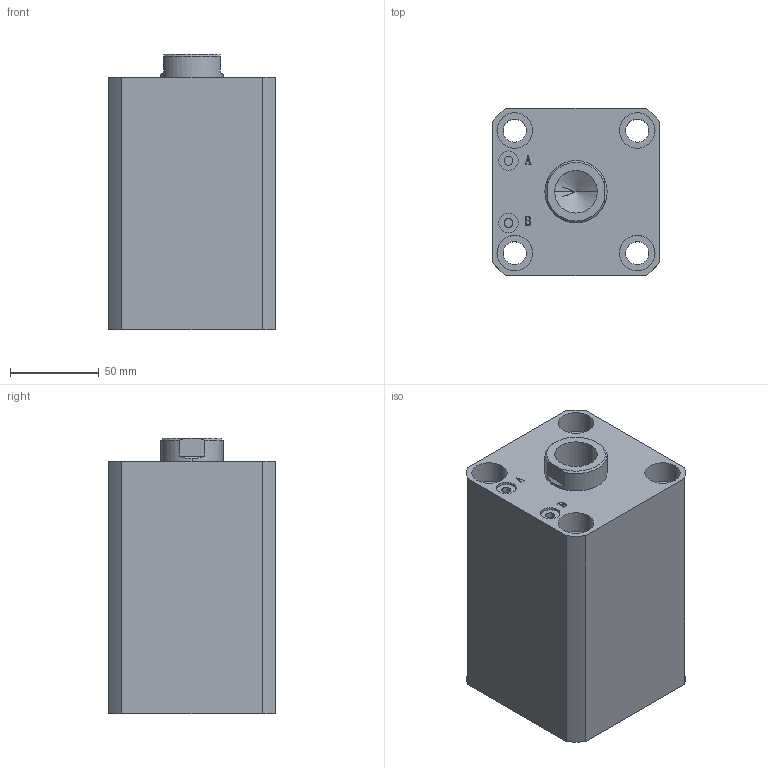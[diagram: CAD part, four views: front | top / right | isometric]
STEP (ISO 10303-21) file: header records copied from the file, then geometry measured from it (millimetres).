
FILE_DESCRIPTION (( 'STEP AP203' ), '1' );
FILE_NAME ('HTB-SDMA63-75N.STEP', '2019-10-08T01:13:01', ( '微软用户' ), ( '微软中国' ), 'SwSTEP 2.0', 'SolidWorks 2012', '' );
FILE_SCHEMA (( 'CONFIG_CONTROL_DESIGN' ));
Length unit declared in the file: millimetre
Products named in the file (3): HTB-SDMA63-75掛极; HTB-SDMA63-75N; HTB-SDMA63-75N活塞杆
Assembly tree (2 placements, depth 2):
  HTB-SDMA63-75N
    HTB-SDMA63-75掛极
    HTB-SDMA63-75N活塞杆
Bounding box: 94 x 94 x 155 mm (x, y, z)
Volume: 977223.8 mm3; surface area: 145684.8 mm2
Topology: 2 solids, 2 shells, 137 faces, 331 edges, 217 vertices
Faces by surface type: plane 65, cylinder 46, bspline 16, torus 6, cone 4
Entity records: 5070 total; most frequent: CARTESIAN_POINT 1576, ORIENTED_EDGE 658, DIRECTION 647, EDGE_CURVE 329, AXIS2_PLACEMENT_3D 232, VERTEX_POINT 217, VECTOR 183, LINE 183
